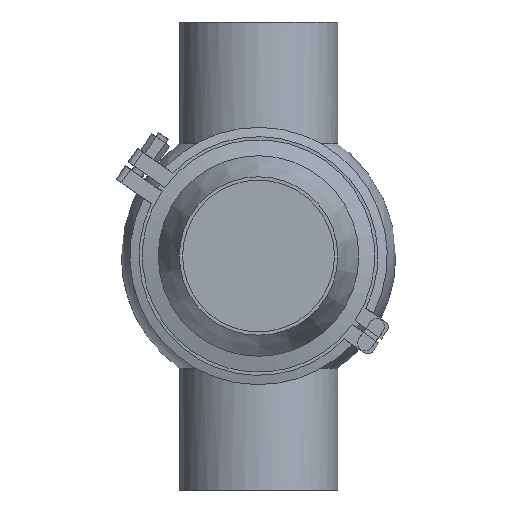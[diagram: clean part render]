
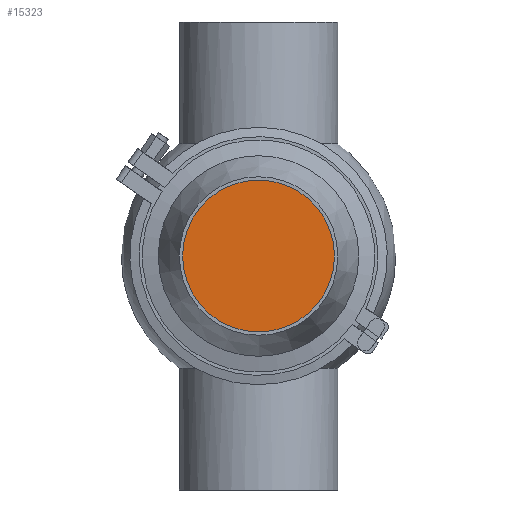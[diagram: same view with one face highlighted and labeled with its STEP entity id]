
A CAD part, front view. The second image highlights one B-rep face of the part: STEP entity #15323.
In plain terms, the highlighted planar face has unit normal (0, -1, 0).
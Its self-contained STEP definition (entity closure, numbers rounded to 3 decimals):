
#2281 = ORIENTED_EDGE ( 'NONE', *, *, #20199, .F. ) ;
#3316 = PLANE ( 'NONE',  #19090 ) ;
#4042 = AXIS2_PLACEMENT_3D ( 'NONE', #14976, #13631, #20144 ) ;
#4592 = DIRECTION ( 'NONE',  ( 0., -1., 0. ) ) ;
#4888 = CARTESIAN_POINT ( 'NONE',  ( -48.7, 0., 0. ) ) ;
#6255 = DIRECTION ( 'NONE',  ( 0., 0., -1. ) ) ;
#8154 = EDGE_LOOP ( 'NONE', ( #2281 ) ) ;
#11242 = VERTEX_POINT ( 'NONE', #19209 ) ;
#13047 = CIRCLE ( 'NONE', #4042, 48.7 ) ;
#13631 = DIRECTION ( 'NONE',  ( 0., 1., 0. ) ) ;
#14976 = CARTESIAN_POINT ( 'NONE',  ( 0., 0., 0. ) ) ;
#15323 = ADVANCED_FACE ( 'NONE', ( #17446 ), #3316, .T. ) ;
#17446 = FACE_OUTER_BOUND ( 'NONE', #8154, .T. ) ;
#19090 = AXIS2_PLACEMENT_3D ( 'NONE', #4888, #4592, #6255 ) ;
#19209 = CARTESIAN_POINT ( 'NONE',  ( 0., 0., 48.7 ) ) ;
#20144 = DIRECTION ( 'NONE',  ( 0., 0., 1. ) ) ;
#20199 = EDGE_CURVE ( 'NONE', #11242, #11242, #13047, .T. ) ;
